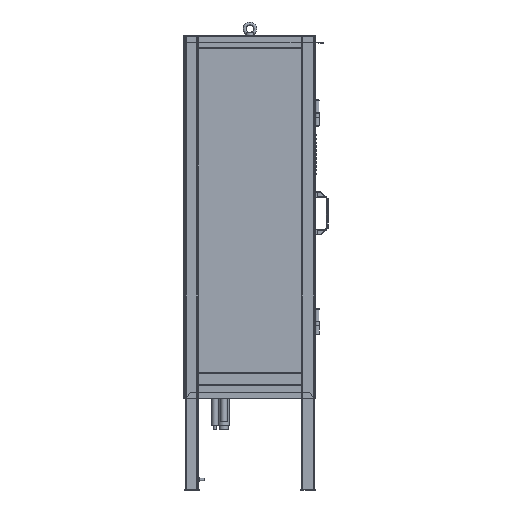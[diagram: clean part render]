
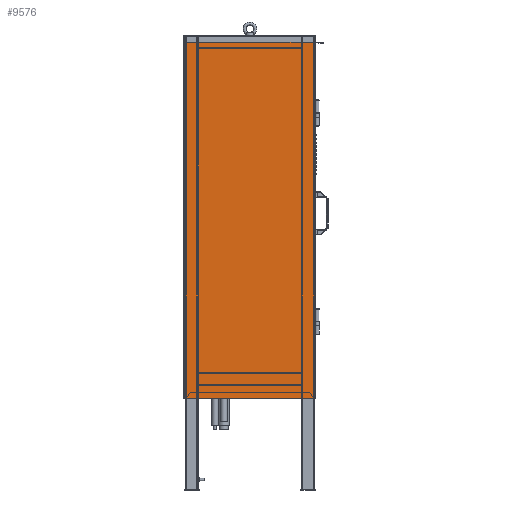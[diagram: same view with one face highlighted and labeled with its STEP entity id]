
A CAD part, left-side view. The second image highlights one B-rep face of the part: STEP entity #9576.
In plain terms, the highlighted planar face has unit normal (-1, 0, 0).
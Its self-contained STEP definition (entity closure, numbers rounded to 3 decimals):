
#9576=ADVANCED_FACE('',(#23377),#23379,.T.);
#23377=FACE_BOUND('',#23378,.T.);
#23378=EDGE_LOOP('',(#29586,#29587,#29588,#29589));
#23379=PLANE('',#23380);
#23380=AXIS2_PLACEMENT_3D('',#23381,#23382,#23383);
#23381=CARTESIAN_POINT('',(-675.8,224.,-676.5));
#23382=DIRECTION('',(-1.,0.,0.));
#23383=DIRECTION('',(0.,-1.,0.));
#29586=ORIENTED_EDGE('',*,*,#32679,.T.);
#29587=ORIENTED_EDGE('',*,*,#32680,.T.);
#29588=ORIENTED_EDGE('',*,*,#32681,.T.);
#29589=ORIENTED_EDGE('',*,*,#32682,.T.);
#32679=EDGE_CURVE('',#37191,#37192,#37193,.T.);
#32680=EDGE_CURVE('',#37192,#37194,#37195,.T.);
#32681=EDGE_CURVE('',#37194,#37196,#37197,.T.);
#32682=EDGE_CURVE('',#37196,#37191,#37198,.T.);
#37191=VERTEX_POINT('',#51136);
#37192=VERTEX_POINT('',#51137);
#37193=LINE('',#51138,#51139);
#37194=VERTEX_POINT('',#51141);
#37195=LINE('',#51142,#51143);
#37196=VERTEX_POINT('',#51145);
#37197=LINE('',#51146,#51147);
#37198=LINE('',#51149,#51150);
#51136=CARTESIAN_POINT('',(-675.8,-26.,-1373.5));
#51137=CARTESIAN_POINT('',(-675.8,-26.,23.5));
#51138=CARTESIAN_POINT('',(-675.8,-26.,-1373.5));
#51139=VECTOR('',#51140,1.);
#51140=DIRECTION('',(0.,0.,1.));
#51141=CARTESIAN_POINT('',(-675.8,473.5,23.5));
#51142=CARTESIAN_POINT('',(-675.8,-26.,23.5));
#51143=VECTOR('',#51144,1.);
#51144=DIRECTION('',(0.,1.,0.));
#51145=CARTESIAN_POINT('',(-675.8,473.5,-1373.5));
#51146=CARTESIAN_POINT('',(-675.8,473.5,23.5));
#51147=VECTOR('',#51148,1.);
#51148=DIRECTION('',(0.,0.,-1.));
#51149=CARTESIAN_POINT('',(-675.8,473.5,-1373.5));
#51150=VECTOR('',#51151,1.);
#51151=DIRECTION('',(0.,-1.,0.));
